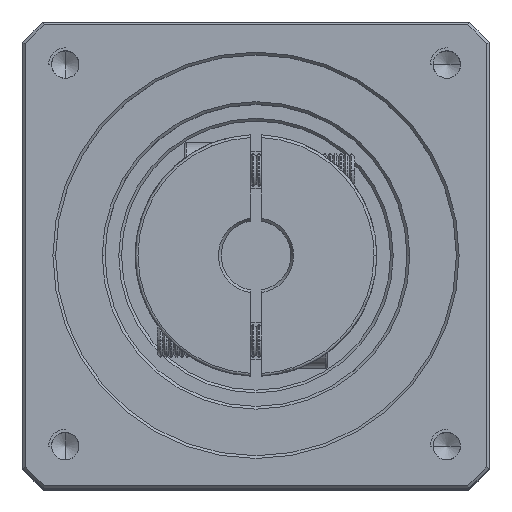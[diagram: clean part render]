
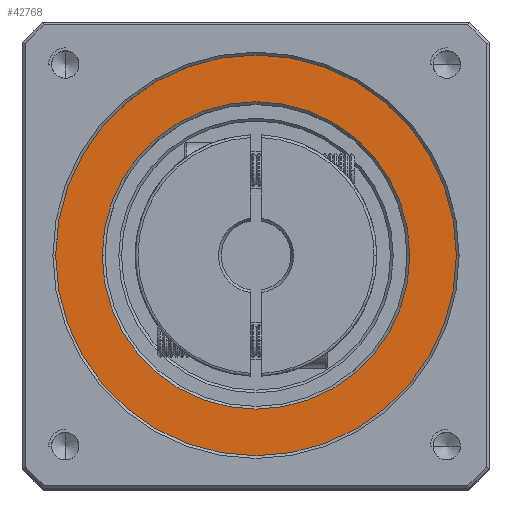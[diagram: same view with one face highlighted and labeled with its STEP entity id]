
A CAD part, top view. The second image highlights one B-rep face of the part: STEP entity #42768.
In plain terms, the highlighted planar face has unit normal (0, 0, 1).
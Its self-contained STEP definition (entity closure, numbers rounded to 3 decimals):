
#3171 = FACE_OUTER_BOUND ( 'NONE', #94484, .T. ) ;
#11733 = CARTESIAN_POINT ( 'NONE',  ( -62.658, 1.512, 180. ) ) ;
#13071 = DIRECTION ( 'NONE',  ( 0., 0., 1. ) ) ;
#27744 = CIRCLE ( 'NONE', #67594, 28. ) ;
#27793 = ORIENTED_EDGE ( 'NONE', *, *, #79346, .T. ) ;
#28936 = CARTESIAN_POINT ( 'NONE',  ( -34.658, 1.512, 180. ) ) ;
#29834 = CIRCLE ( 'NONE', #101505, 36.5 ) ;
#31757 = DIRECTION ( 'NONE',  ( 0., 0., -1. ) ) ;
#32981 = DIRECTION ( 'NONE',  ( 1., 0., 0. ) ) ;
#33176 = VERTEX_POINT ( 'NONE', #11733 ) ;
#33616 = DIRECTION ( 'NONE',  ( 1., 0., 0. ) ) ;
#35458 = AXIS2_PLACEMENT_3D ( 'NONE', #42633, #13071, #33616 ) ;
#35520 = VERTEX_POINT ( 'NONE', #102734 ) ;
#36812 = EDGE_CURVE ( 'NONE', #33176, #104094, #76517, .T. ) ;
#42430 = VERTEX_POINT ( 'NONE', #89050 ) ;
#42633 = CARTESIAN_POINT ( 'NONE',  ( -34.658, 1.512, 180. ) ) ;
#42768 = ADVANCED_FACE ( 'NONE', ( #3171, #70645 ), #125762, .T. ) ;
#60908 = AXIS2_PLACEMENT_3D ( 'NONE', #71102, #92104, #32981 ) ;
#65299 = CARTESIAN_POINT ( 'NONE',  ( -34.658, 1.512, 180. ) ) ;
#66790 = ORIENTED_EDGE ( 'NONE', *, *, #36812, .T. ) ;
#67594 = AXIS2_PLACEMENT_3D ( 'NONE', #80623, #31757, #100421 ) ;
#68369 = DIRECTION ( 'NONE',  ( 1., 0., 0. ) ) ;
#70645 = FACE_BOUND ( 'NONE', #93475, .T. ) ;
#71102 = CARTESIAN_POINT ( 'NONE',  ( -34.658, 1.512, 180. ) ) ;
#75079 = DIRECTION ( 'NONE',  ( 1., 0., 0. ) ) ;
#76517 = CIRCLE ( 'NONE', #60908, 28. ) ;
#79346 = EDGE_CURVE ( 'NONE', #42430, #35520, #116914, .T. ) ;
#79823 = EDGE_CURVE ( 'NONE', #104094, #33176, #27744, .T. ) ;
#80623 = CARTESIAN_POINT ( 'NONE',  ( -34.658, 1.512, 180. ) ) ;
#88930 = CARTESIAN_POINT ( 'NONE',  ( -6.658, 1.512, 180. ) ) ;
#89050 = CARTESIAN_POINT ( 'NONE',  ( 1.842, 1.512, 180. ) ) ;
#91907 = ORIENTED_EDGE ( 'NONE', *, *, #79823, .T. ) ;
#92104 = DIRECTION ( 'NONE',  ( 0., 0., -1. ) ) ;
#93475 = EDGE_LOOP ( 'NONE', ( #91907, #66790 ) ) ;
#94484 = EDGE_LOOP ( 'NONE', ( #27793, #123793 ) ) ;
#100421 = DIRECTION ( 'NONE',  ( 1., 0., 0. ) ) ;
#101505 = AXIS2_PLACEMENT_3D ( 'NONE', #65299, #114981, #75079 ) ;
#102734 = CARTESIAN_POINT ( 'NONE',  ( -71.158, 1.512, 180. ) ) ;
#104094 = VERTEX_POINT ( 'NONE', #88930 ) ;
#107443 = DIRECTION ( 'NONE',  ( 0., 0., 1. ) ) ;
#108940 = AXIS2_PLACEMENT_3D ( 'NONE', #28936, #107443, #68369 ) ;
#114981 = DIRECTION ( 'NONE',  ( 0., 0., 1. ) ) ;
#116914 = CIRCLE ( 'NONE', #35458, 36.5 ) ;
#122733 = EDGE_CURVE ( 'NONE', #35520, #42430, #29834, .T. ) ;
#123793 = ORIENTED_EDGE ( 'NONE', *, *, #122733, .T. ) ;
#125762 = PLANE ( 'NONE',  #108940 ) ;
